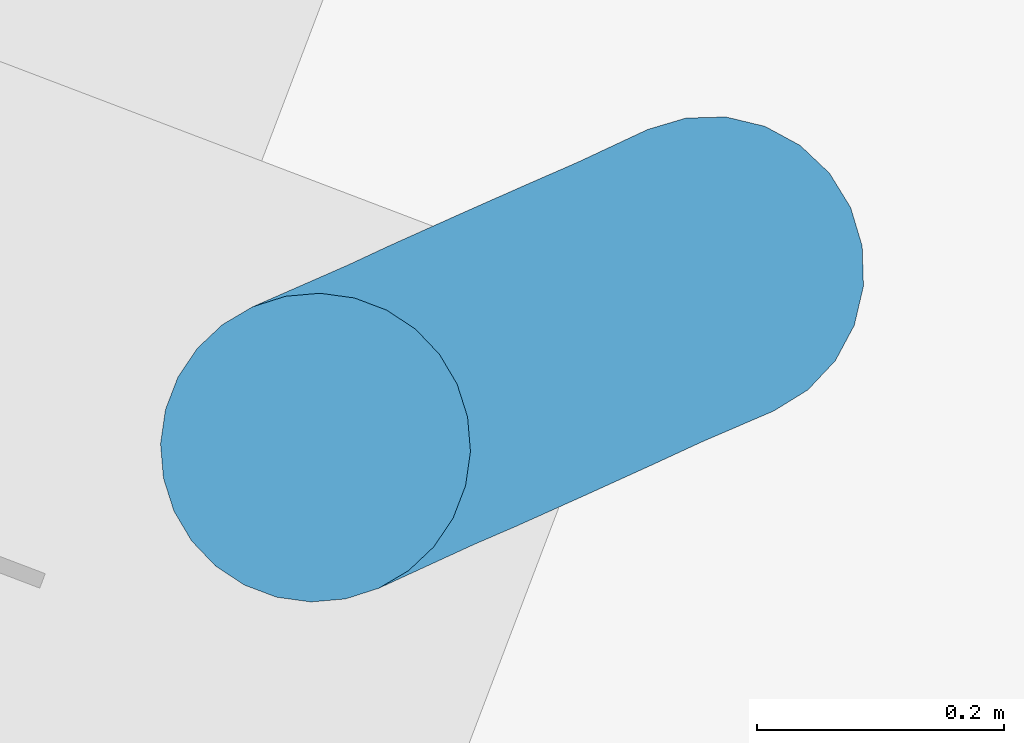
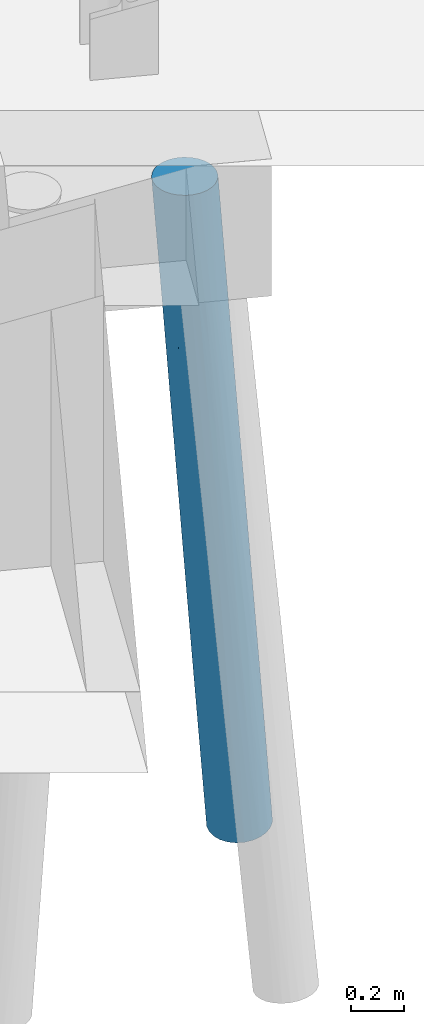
# One storey, part 11 of 46: 1 pile.
"""IFC2X3 building model written with IfcOpenShell, lengths in millimetres."""

from ifc_helpers import new_model, entity, si_unit, converted_unit, derived_unit, direction, frame, origin, place, context, subcontext, project, spatial, faceted_brep, source, transform, mapped, material, type_object, type_shapes, element, save


model = new_model("IFC2X3")

# Units and contexts
model_context = context("Model", 3, precision=0.01, world=origin(), true_north=direction((6.123233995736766e-17, 1.0)))
body_context = subcontext(model_context, "Body", "Model", "MODEL_VIEW")
ifc_project = project(units=[si_unit("LENGTHUNIT", "METRE", prefix="MILLI"), converted_unit("PLANEANGLEUNIT", "DEGREE", entity("IfcPlaneAngleMeasure", 0.017453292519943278), si_unit("PLANEANGLEUNIT", "RADIAN"), dimensions=[0, 0, 0, 0, 0, 0, 0]), si_unit("AREAUNIT", "SQUARE_METRE"), derived_unit("THERMALTRANSMITTANCEUNIT", [(si_unit("MASSUNIT", "GRAM", prefix="KILO"), 1), (si_unit("THERMODYNAMICTEMPERATUREUNIT", "KELVIN"), -1), (si_unit("TIMEUNIT", "SECOND"), -3)])], contexts=[model_context])

# Site, building, storey
site_placement = place(None, frame((-72937.88054949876, 11621.45624098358, 0.0), z_axis=(0.0, 0.0, 1.0), x_axis=(0.9346418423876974, -0.35559053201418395, 0.0)))
site = spatial("IfcSite", under=ifc_project, at=site_placement, Name="Default", CompositionType="ELEMENT")
building_placement = place(site_placement, origin())
building = spatial("IfcBuilding", under=site, at=building_placement, CompositionType="ELEMENT")
storey_placement = place(building_placement, origin())
storey = spatial("IfcBuildingStorey", under=building, at=storey_placement, Name="00 begane grond", CompositionType="ELEMENT", Elevation=0.0)

# Pile
ifc_material = material(Name="beton_gewapend_prefab-element_c45/55")
type_product = type_object("IfcTypeProduct", Name="Type 01", material=ifc_material)
shared_shape = source(origin(), body_context, "Body", "Brep", [
    faceted_brep([(50.02983679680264, 41.219149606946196, -1478.3429510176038), (41.770052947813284, 0.0, -1615.992665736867), (-21.492869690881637, 34.07967924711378, -2142.478153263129), (-196.51418126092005, 41.35907440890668, -1560.459568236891), (-209.7685117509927, 0.0, -1615.993463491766), (-120.39371842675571, 27.815116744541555, -840.0), (-105.46135978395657, 105.60554685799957, -2414.744852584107), (-29.01608810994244, 89.9027707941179, -1907.5825387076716), (-88.8773638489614, 91.39060439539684, -2432.143714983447), (44.04069234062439, 66.4881713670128, -1422.150587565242), (100.55257203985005, 77.93622523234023, -840.0), (115.53639022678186, 54.235467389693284, -840.0), (-181.63351961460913, 47.83542906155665, -3540.4622999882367), (-228.8866429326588, 32.35238063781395, -4013.333582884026), (-241.29781855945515, 62.499999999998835, -4011.9545633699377), (124.838162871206, 27.815116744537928, -840.0), (127.99146025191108, 0.0, -840.0), (80.6380595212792, 97.7289353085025, -840.0), (-1.0422673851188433, 115.29700921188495, -1306.6345347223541), (56.79144948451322, 112.62110848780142, -840.0), (-82.66188090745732, 124.23733970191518, -1479.1096584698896), (-119.59016639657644, 124.77532272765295, -1868.4753366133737), (-148.0004270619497, 121.55050259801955, -1927.9224619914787), (-25.764066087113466, 121.86598902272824, -840.0), (2.2222222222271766, 125.0, -840.0), (35.238837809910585, 88.30507823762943, -1343.9943162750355), (30.208510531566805, 121.86598902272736, -840.0), (-38.42848163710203, 123.4640225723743, -1382.7576650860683), (-59.298226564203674, 117.91120533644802, -1769.4495348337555), (-121.64165871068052, 118.88184081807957, -2304.5646505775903), (-105.46067851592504, 124.17311504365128, -1939.1271630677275), (-181.54271840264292, 0.0, -3625.807607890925), (-224.65342205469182, 0.0, -4013.803940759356), (-186.42266103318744, 99.1691675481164, -3226.87509877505), (-111.16783038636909, 79.40373738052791, -2734.7208670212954), (-187.86059930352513, 76.09517863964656, -3448.7603995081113), (-294.2594631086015, 123.9306076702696, -3360.5895502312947), (-348.8888888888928, 125.0, -4000.0), (-381.04339378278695, 120.74072828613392, -3996.4272772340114), (-71.50265177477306, 37.61355729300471, -2582.985799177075), (-105.1394697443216, 22.11026756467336, -2920.330251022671), (-119.53291308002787, 47.835429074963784, -2981.5568411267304), (-160.26870491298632, 23.53094104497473, -3414.1045295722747), (-238.88036705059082, 115.48494156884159, -3443.09153660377), (-286.7711554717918, 108.25317547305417, -4006.901970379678), (-261.04114782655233, 88.38834764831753, -4009.7608601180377), (-316.7343839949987, 120.74072828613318, -4003.5727227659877), (-61.65923548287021, 74.64816535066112, -2322.8523974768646), (-84.00174733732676, 60.02171841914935, -2608.908596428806), (-151.97718420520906, 123.99260475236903, -2371.21148137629), (-173.2739820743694, 115.31995815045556, -2856.223431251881), (-123.54701580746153, 0.0, -840.0), (-295.99000769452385, 0.0, -2391.9869269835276), (-250.82857575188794, 22.617884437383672, -2004.2180489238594), (-107.44397040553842, 105.89787173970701, -1225.6035634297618), (-76.19361507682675, 97.72893530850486, -840.0), (-52.347005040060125, 112.6211084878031, -840.0), (-281.4812245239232, 123.93060767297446, -3541.076638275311), (-109.06614769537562, 117.57336724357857, -1457.2474766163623), (-111.0919457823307, 54.235467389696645, -840.0), (-15.85514051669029, 105.72630914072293, -1606.5585830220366), (-158.7756678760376, 105.96661342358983, -1688.5825591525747), (-146.68659472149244, 88.47759853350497, -1380.5978408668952), (-404.9818286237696, 23.95962394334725, -3393.901362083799), (-384.5571817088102, 0.0, -3189.0914931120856), (-348.5966640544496, 22.310072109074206, -2883.6216315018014), (-456.47995921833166, 62.500000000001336, -3988.0454366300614), (-468.89113484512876, 32.35238063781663, -3986.6664171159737), (-416.28748070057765, 47.83542904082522, -3560.8267027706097), (-337.6622645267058, 115.48494156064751, -3465.7921474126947), (-411.00662230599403, 108.25317547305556, -3993.0980296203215), (-204.57839676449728, 89.69967503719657, -1912.868459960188), (-241.9682357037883, 100.09571921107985, -2359.71747411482), (-255.69185443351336, 84.13968982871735, -2324.129304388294), (-96.10812759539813, 77.93622523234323, -840.0), (-377.92930595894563, 99.16916753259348, -3572.292603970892), (-436.73662995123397, 88.38834764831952, -3990.239139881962), (-206.9618348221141, 60.37792335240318, -1731.5361763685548), (-296.17437932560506, 43.53585544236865, -2464.5182361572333), (-358.4295495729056, 47.83542903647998, -3040.1053226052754), (-379.61635653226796, 76.09517861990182, -3378.5322028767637), (-430.0136077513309, 0.0, -3598.1993274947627), (-306.3551153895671, 77.61365432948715, -2729.901333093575), (-213.4617402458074, 118.14633713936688, -2411.4959163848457), (-159.2186646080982, 65.41382269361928, -1328.4086999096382), (-67.97340634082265, 109.92592992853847, -2010.6352011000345), (-179.43548008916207, 124.76102802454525, -2404.960456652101), (-13.219750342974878, 66.34050229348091, -1938.3332116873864), (-236.1740964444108, 124.51562049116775, -2886.015168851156), (-270.1086403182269, 119.49229851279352, -2958.6820679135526), (-268.3059733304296, 110.2317272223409, -2741.026078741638), (-320.7170568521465, 99.16916752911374, -3057.382361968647), (-473.12435572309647, 0.0, -3986.1960592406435), (-138.91569201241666, 99.37675608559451, -2796.855638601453), (-220.46267944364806, 123.93060767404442, -2991.909732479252), (-44.45135435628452, 0.0, -2391.9853314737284), (-247.1590829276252, 66.69543969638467, -2127.0964328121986), (-134.55238820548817, 0.0, -3202.8946361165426), (-89.50217198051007, 0.0, -2797.442690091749), (-340.273594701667, 0.0, -2790.5392100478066), (-303.09738986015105, 21.900839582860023, -2473.462328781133), (-246.59414544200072, 45.758522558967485, -2025.9931784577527), (-120.39371842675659, -27.815116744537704, -840.0), (-111.09194578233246, -54.23546738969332, -840.0), (-96.1081275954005, -77.93622523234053, -840.0), (-76.19361507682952, -97.72893530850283, -840.0), (-52.3470050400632, -112.62110848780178, -840.0), (-25.764066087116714, -121.86598902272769, -840.0), (2.22222222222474, -125.0, -840.0), (30.20851053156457, -121.86598902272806, -840.0), (56.7914494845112, -112.62110848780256, -840.0), (80.63805952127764, -97.72893530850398, -840.0), (100.55257203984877, -77.93622523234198, -840.0), (115.53639022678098, -54.23546738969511, -840.0), (124.83816287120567, -27.815116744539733, -840.0), (-241.96823566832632, -100.09571920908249, -2359.717473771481), (-268.30597321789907, -110.23172722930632, -2741.026077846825), (-213.46174017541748, -118.14633716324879, -2411.4959163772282), (-187.1422997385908, -67.5957584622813, -1592.1374826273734), (-196.5141812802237, -41.359074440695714, -1560.4595685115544), (-82.66188086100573, -124.2373397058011, -1479.1096583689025), (-13.219750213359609, -66.3405022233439, -1938.3332109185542), (35.23883807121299, -88.30507821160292, -1343.9943141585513), (-29.016087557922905, -89.90277069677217, -1907.5825346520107), (-109.06614766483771, -117.57336725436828, -1457.2474766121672), (-294.2594631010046, -123.93060767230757, -3360.5895503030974), (-337.66226453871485, -115.48494156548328, -3465.7921476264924), (-381.04339378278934, -120.74072828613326, -3996.4272772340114), (-320.717056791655, -99.16916754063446, -3057.382361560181), (-379.61635651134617, -76.09517863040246, -3378.53220276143), (-377.9293059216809, -99.16916753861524, -3572.292603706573), (-186.42266103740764, -99.16916753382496, -3226.875098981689), (-238.88036707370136, -115.48494156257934, -3443.0915369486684), (-286.77115547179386, -108.25317547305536, -4006.901970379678), (-228.88664293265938, -32.352380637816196, -4013.333582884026), (-181.63351956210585, -47.835429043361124, -3540.4622995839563), (-241.29781855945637, -62.50000000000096, -4011.9545633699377), (-107.44397039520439, -105.89787175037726, -1225.6035634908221), (-38.428481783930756, -123.46402262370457, -1382.7576634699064), (-468.89113484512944, -32.35238063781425, -3986.6664171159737), (-138.91569233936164, -99.37675620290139, -2796.855640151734), (-173.2739821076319, -115.31995832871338, -2856.223427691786), (-160.26870486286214, -23.530941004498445, -3414.104529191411), (-187.86059935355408, -76.09517862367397, -3448.760400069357), (-261.041147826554, -88.38834764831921, -4009.7608601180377), (-306.3551154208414, -77.61365434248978, -2729.901333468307), (-348.8888888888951, -125.0, -4000.0), (-416.2874806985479, -47.83542904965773, -3560.826702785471), (-456.47995921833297, -62.49999999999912, -3988.0454366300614), (-436.7366299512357, -88.38834764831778, -3990.239139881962), (-411.0066223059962, -108.25317547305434, -3993.0980296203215), (-71.50265159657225, -37.613557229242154, -2582.9857977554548), (-21.492869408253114, -34.07967918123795, -2142.4781508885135), (-84.00174724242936, -60.02171839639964, -2608.9085956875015), (-281.4812244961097, -123.9306076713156, -3541.076638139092), (-220.46267940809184, -123.93060767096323, -2991.9097323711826), (-158.7756678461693, -105.9666134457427, -1688.5825592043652), (-148.00042700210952, -121.5505026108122, -1927.922461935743), (-1.0422669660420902, -115.29700910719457, -1306.6345332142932), (-59.298225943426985, -117.91120535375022, -1769.4495288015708), (-15.85514048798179, -105.72630911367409, -1606.5585831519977), (-270.1086403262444, -119.4922985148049, -2958.682068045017), (50.02983688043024, -41.21914955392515, -1478.342950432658), (-146.6865947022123, -88.47759855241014, -1380.5978408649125), (-296.1743793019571, -43.53585546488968, -2464.5182360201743), (-348.59666404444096, -22.310072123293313, -2883.6216314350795), (-358.42954957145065, -47.83542905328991, -3040.1053226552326), (57.21126448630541, -65.80573689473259, -1307.4694469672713), (-67.97340649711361, -109.92593000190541, -2010.6352012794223), (-121.64165783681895, -118.88184074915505, -2304.564644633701), (-105.13946990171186, -22.110267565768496, -2920.330252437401), (-179.43547996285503, -124.76102802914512, -2404.960456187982), (-316.73438399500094, -120.7407282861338, -4003.5727227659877), (-119.53291301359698, -47.8354290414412, -2981.5568406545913), (-250.82857577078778, -22.61788446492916, -2004.218049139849), (-404.98182862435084, -23.95962395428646, -3393.901362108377), (-61.65923550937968, -74.64816548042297, -2322.852396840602), (-243.17628094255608, -45.971171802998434, -1995.9919190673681), (-105.46135971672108, -105.60554680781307, -2414.7448526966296), (-111.16783063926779, -79.40373735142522, -2734.7208695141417), (-119.59016630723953, -124.77532273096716, -1868.4753363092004), (-236.1740963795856, -124.51562049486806, -2886.0151686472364), (-204.57839665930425, -89.69967507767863, -1912.868459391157), (-247.15908295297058, -66.69543974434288, -2127.09643331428), (-88.87736442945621, -91.39060438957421, -2432.1437202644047), (-255.69185439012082, -84.13968979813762, -2324.1293037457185), (-105.46067843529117, -124.17311503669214, -1939.1271628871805), (-168.17815851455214, -123.85607816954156, -2526.387901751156), (-303.0973898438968, -21.90083960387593, -2473.4623286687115)], [[[0, 1, 2]], [[3, 4, 5]], [[6, 7, 8]], [[9, 10, 11]], [[12, 13, 14]], [[15, 16, 1]], [[17, 18, 19]], [[20, 21, 22]], [[23, 24, 20]], [[25, 17, 10]], [[26, 18, 27]], [[27, 20, 24]], [[28, 29, 30]], [[31, 32, 13]], [[33, 34, 35]], [[36, 37, 38]], [[39, 40, 41]], [[41, 42, 12]], [[43, 33, 44]], [[45, 33, 35]], [[46, 43, 44]], [[34, 47, 48]], [[49, 29, 50]], [[4, 51, 5]], [[30, 27, 28]], [[52, 4, 53]], [[54, 55, 56]], [[37, 36, 57]], [[56, 23, 58]], [[46, 37, 57]], [[59, 3, 5]], [[11, 15, 0]], [[3, 53, 4]], [[7, 60, 25]], [[44, 33, 45]], [[54, 61, 62]], [[63, 64, 65]], [[66, 67, 68]], [[36, 38, 69]], [[70, 69, 38]], [[71, 72, 73]], [[74, 55, 62]], [[75, 70, 76]], [[71, 77, 62]], [[78, 79, 65]], [[80, 75, 76]], [[63, 81, 64]], [[82, 80, 79]], [[66, 80, 76]], [[61, 83, 72]], [[59, 84, 3]], [[85, 6, 29]], [[25, 10, 9]], [[86, 21, 30]], [[35, 14, 45]], [[33, 43, 50]], [[54, 56, 58]], [[22, 58, 20]], [[87, 0, 2]], [[0, 15, 1]], [[83, 86, 88]], [[40, 42, 41]], [[89, 69, 90]], [[84, 59, 74]], [[72, 71, 61]], [[91, 80, 82]], [[79, 80, 68]], [[14, 35, 12]], [[92, 81, 67]], [[41, 35, 34]], [[48, 39, 41]], [[93, 8, 34]], [[50, 93, 33]], [[94, 43, 57]], [[36, 69, 89]], [[91, 69, 75]], [[48, 41, 34]], [[95, 2, 1]], [[91, 82, 72]], [[78, 96, 82]], [[90, 91, 72]], [[71, 62, 61]], [[13, 42, 31]], [[41, 12, 35]], [[46, 57, 43]], [[94, 57, 36]], [[97, 31, 42]], [[40, 97, 42]], [[12, 42, 13]], [[98, 97, 40, 95]], [[2, 95, 39]], [[55, 54, 62]], [[61, 54, 58]], [[83, 61, 22]], [[20, 58, 23]], [[58, 22, 61]], [[86, 83, 22]], [[88, 89, 83]], [[29, 49, 30]], [[88, 36, 89]], [[83, 89, 90]], [[40, 39, 95]], [[87, 2, 48]], [[39, 48, 2]], [[87, 48, 47]], [[87, 47, 7]], [[47, 34, 8]], [[9, 0, 87]], [[85, 60, 7]], [[17, 25, 60]], [[87, 7, 9]], [[47, 8, 7]], [[6, 8, 93]], [[50, 6, 93]], [[33, 93, 34]], [[6, 50, 29]], [[50, 43, 94]], [[60, 85, 28]], [[49, 86, 30]], [[60, 28, 18]], [[28, 27, 18]], [[26, 27, 24]], [[20, 27, 21]], [[60, 18, 17]], [[26, 19, 18]], [[84, 62, 77]], [[82, 96, 73]], [[83, 90, 72]], [[91, 90, 69]], [[88, 94, 36]], [[94, 88, 49]], [[66, 68, 80]], [[68, 67, 63]], [[63, 65, 79]], [[81, 63, 67]], [[68, 63, 79]], [[78, 82, 79]], [[65, 99, 100]], [[53, 101, 78]], [[78, 65, 100]], [[70, 75, 69]], [[91, 75, 80]], [[71, 73, 96]], [[73, 72, 82]], [[28, 85, 29]], [[6, 85, 7]], [[52, 53, 100]], [[96, 78, 101]], [[3, 84, 77]], [[62, 84, 74]], [[22, 21, 86]], [[30, 21, 27]], [[0, 9, 11]], [[25, 9, 7]], [[86, 49, 88]], [[94, 49, 50]], [[78, 100, 53]], [[65, 64, 99]], [[52, 100, 99]], [[96, 101, 77]], [[101, 53, 3]], [[3, 77, 101]], [[96, 77, 71]], [[56, 55, 74, 59, 5, 51, 102, 103, 104, 105, 106, 107, 108, 109, 110, 111, 112, 113, 114, 16, 15, 11, 10, 17, 19, 26, 24, 23]], [[4, 102, 51]], [[115, 116, 117]], [[104, 103, 118]], [[103, 102, 119]], [[108, 107, 120]], [[121, 122, 123]], [[107, 124, 120]], [[125, 126, 127]], [[128, 129, 130]], [[131, 132, 133]], [[134, 135, 136]], [[106, 105, 137]], [[109, 108, 138]], [[81, 92, 139]], [[131, 140, 141]], [[31, 97, 142]], [[143, 131, 144]], [[145, 129, 128]], [[125, 127, 146]], [[147, 139, 148]], [[130, 149, 150]], [[151, 152, 153]], [[125, 154, 155]], [[156, 157, 124]], [[158, 159, 160]], [[119, 102, 4]], [[110, 109, 158]], [[126, 125, 161]], [[162, 114, 113]], [[111, 158, 160]], [[163, 137, 105]], [[164, 165, 166]], [[122, 112, 111]], [[1, 16, 114]], [[162, 113, 167]], [[122, 121, 167]], [[168, 159, 169]], [[142, 97, 170]], [[171, 157, 117]], [[146, 172, 154]], [[104, 118, 163]], [[160, 159, 168]], [[104, 163, 105]], [[131, 133, 144]], [[115, 145, 128]], [[143, 144, 136]], [[152, 162, 121]], [[148, 149, 129]], [[151, 153, 173]], [[4, 174, 119]], [[166, 175, 147]], [[176, 121, 123]], [[177, 174, 164]], [[178, 169, 141]], [[132, 172, 133]], [[173, 179, 143]], [[180, 157, 171]], [[137, 156, 124]], [[162, 1, 114]], [[95, 1, 152]], [[126, 150, 127]], [[32, 31, 134]], [[161, 181, 117]], [[115, 156, 182]], [[177, 183, 118]], [[148, 129, 147]], [[145, 164, 166]], [[172, 132, 154]], [[165, 175, 166]], [[178, 141, 140]], [[131, 143, 179]], [[173, 143, 135]], [[140, 184, 178]], [[121, 176, 153]], [[150, 126, 130]], [[117, 116, 161]], [[162, 152, 1]], [[151, 170, 95]], [[129, 145, 166]], [[182, 156, 163]], [[182, 183, 185]], [[156, 115, 117]], [[136, 135, 143]], [[135, 134, 142]], [[146, 154, 125]], [[155, 154, 132]], [[142, 170, 173]], [[31, 142, 134]], [[135, 142, 173]], [[173, 170, 151]], [[98, 95, 170, 97]], [[124, 107, 106]], [[156, 137, 163]], [[106, 137, 124]], [[120, 124, 157]], [[120, 157, 180]], [[117, 157, 156]], [[169, 186, 187]], [[125, 181, 161]], [[128, 126, 116]], [[171, 117, 181]], [[153, 179, 173]], [[152, 151, 95]], [[179, 153, 176]], [[121, 153, 152]], [[176, 184, 179]], [[123, 168, 178]], [[184, 176, 123]], [[122, 111, 160]], [[112, 167, 113]], [[123, 122, 160]], [[131, 179, 140]], [[178, 184, 123]], [[184, 140, 179]], [[132, 131, 141]], [[141, 155, 132]], [[155, 187, 181]], [[155, 141, 187]], [[159, 186, 169]], [[186, 159, 138]], [[138, 158, 109]], [[186, 138, 180]], [[120, 138, 108]], [[159, 158, 138]], [[110, 158, 111]], [[115, 182, 185]], [[183, 182, 118]], [[161, 116, 126]], [[128, 116, 115]], [[171, 181, 187]], [[181, 125, 155]], [[139, 175, 81]], [[166, 147, 129]], [[64, 81, 175]], [[165, 64, 175]], [[147, 175, 139]], [[99, 64, 165]], [[145, 183, 164]], [[164, 188, 165]], [[4, 52, 174]], [[149, 130, 129]], [[128, 130, 126]], [[185, 145, 115]], [[145, 185, 183]], [[160, 168, 123]], [[178, 168, 169]], [[119, 174, 177]], [[164, 174, 188]], [[119, 118, 103]], [[163, 118, 182]], [[120, 180, 138]], [[186, 180, 171]], [[162, 167, 121]], [[122, 167, 112]], [[171, 187, 186]], [[169, 187, 141]], [[165, 188, 99]], [[52, 99, 188]], [[52, 188, 174]], [[119, 177, 118]], [[183, 177, 164]], [[127, 150, 149, 148, 139, 92, 67, 66, 76, 70, 38, 37, 46, 44, 45, 14, 13, 32, 134, 136, 144, 133, 172, 146]]]),
])
type_shapes(type_product, [shared_shape])
pile_placement = place(storey_placement, frame((57870.0, 22180.0, 0.0), z_axis=(0.0, 0.0, 1.0), x_axis=(-0.7071067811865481, -0.707106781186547, 0.0)))
element("IfcPile", 1, at=pile_placement, inside=storey, type_object=type_product, material=ifc_material, Name="17.21_Prefab funderingspaal rond", ObjectType="prefab paal rond", PredefinedType="NOTDEFINED", context=body_context, shape_type="MappedRepresentation", body=[
    mapped(shared_shape, transform((0.0, 0.0, 0.0), scale=1.0)),
])

save(model, "model.ifc")
